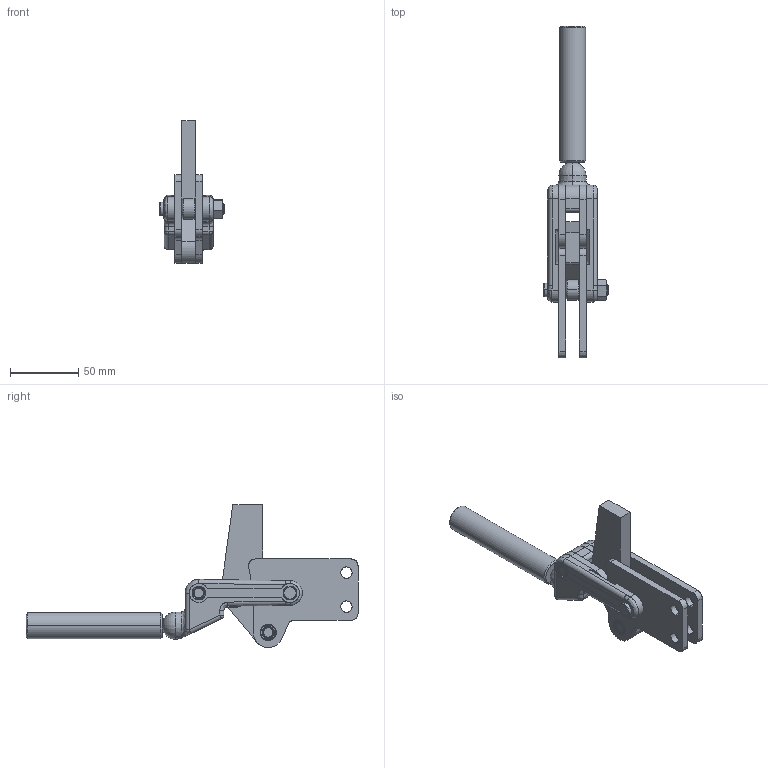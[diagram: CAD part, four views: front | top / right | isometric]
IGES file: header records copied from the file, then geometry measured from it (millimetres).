
Start section: SolidWorks IGES file using analytic representation for surfaces
Global section: file name: D:\GH Files\°Æ\SW-GH-FILES\GH7\70720\70720.IGS; native system: SolidWorks 2006 by SolidWorks Corporation; preprocessor: SolidWorks 2006 by SolidWorks Corporation; author: Administrator; date: 050926.142055; units: millimetre
Bounding box: 48 x 244 x 105 mm (x, y, z)
Surface area: 58774.1 mm2 (no closed solid volume)
Topology: 0 solids, 0 shells, 1786 faces, 11842 edges, 11832 vertices
Faces by surface type: bspline 1318, revolution 468
